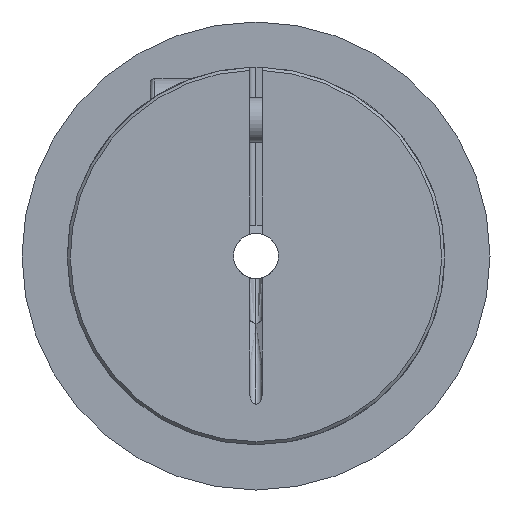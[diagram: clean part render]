
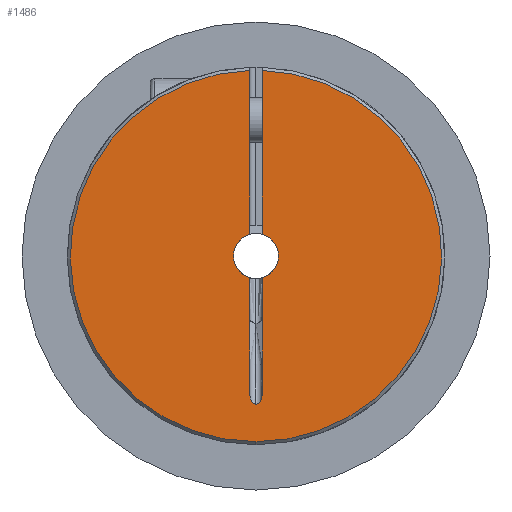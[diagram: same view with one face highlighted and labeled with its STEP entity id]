
A CAD part, left-side view. The second image highlights one B-rep face of the part: STEP entity #1486.
In plain terms, the highlighted planar face has unit normal (-1, 0, 0).
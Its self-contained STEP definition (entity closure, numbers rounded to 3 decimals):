
#5 = AXIS2_PLACEMENT_3D ( 'NONE', #1134, #2163, #2749 ) ;
#6 = DIRECTION ( 'NONE',  ( 1., 0., 0. ) ) ;
#101 = CARTESIAN_POINT ( 'NONE',  ( 0., 0.4, -9.347 ) ) ;
#121 = CARTESIAN_POINT ( 'NONE',  ( 0., 0.278, -9.654 ) ) ;
#137 = EDGE_CURVE ( 'NONE', #2984, #2176, #3076, .T. ) ;
#161 = LINE ( 'NONE', #651, #2791 ) ;
#164 = DIRECTION ( 'NONE',  ( 0., 0., 1. ) ) ;
#168 = VERTEX_POINT ( 'NONE', #2714 ) ;
#177 = ORIENTED_EDGE ( 'NONE', *, *, #1139, .T. ) ;
#186 = CIRCLE ( 'NONE', #5, 1.5 ) ;
#262 = DIRECTION ( 'NONE',  ( -1., 0., 0. ) ) ;
#301 = DIRECTION ( 'NONE',  ( -1., 0., 0. ) ) ;
#310 = ORIENTED_EDGE ( 'NONE', *, *, #1263, .T. ) ;
#317 = CARTESIAN_POINT ( 'NONE',  ( 0., 0., 0. ) ) ;
#362 = ORIENTED_EDGE ( 'NONE', *, *, #137, .T. ) ;
#383 = ORIENTED_EDGE ( 'NONE', *, *, #428, .F. ) ;
#424 = EDGE_CURVE ( 'NONE', #3245, #2863, #3119, .T. ) ;
#428 = EDGE_CURVE ( 'NONE', #1166, #2917, #1960, .T. ) ;
#495 = CARTESIAN_POINT ( 'NONE',  ( 0., -0.132, -9.789 ) ) ;
#510 = VERTEX_POINT ( 'NONE', #1054 ) ;
#607 = VERTEX_POINT ( 'NONE', #2677 ) ;
#635 = CIRCLE ( 'NONE', #2739, 12.3 ) ;
#651 = CARTESIAN_POINT ( 'NONE',  ( 0., 0.4, 0. ) ) ;
#662 = FACE_OUTER_BOUND ( 'NONE', #2459, .T. ) ;
#664 = ORIENTED_EDGE ( 'NONE', *, *, #424, .F. ) ;
#754 = ORIENTED_EDGE ( 'NONE', *, *, #1452, .F. ) ;
#769 = CARTESIAN_POINT ( 'NONE',  ( 0., 0., -12.3 ) ) ;
#874 = DIRECTION ( 'NONE',  ( 0., 0., -1. ) ) ;
#900 = CARTESIAN_POINT ( 'NONE',  ( 0., 0.131, -9.789 ) ) ;
#922 = CARTESIAN_POINT ( 'NONE',  ( 0., 0.4, 1.446 ) ) ;
#974 = CARTESIAN_POINT ( 'NONE',  ( 0., 0.067, -9.815 ) ) ;
#1042 = CARTESIAN_POINT ( 'NONE',  ( 0., 0.4, -1.446 ) ) ;
#1046 = EDGE_CURVE ( 'NONE', #607, #3245, #186, .T. ) ;
#1054 = CARTESIAN_POINT ( 'NONE',  ( 0., 0.4, 12.293 ) ) ;
#1134 = CARTESIAN_POINT ( 'NONE',  ( 0., 0., 0. ) ) ;
#1139 = EDGE_CURVE ( 'NONE', #1166, #510, #161, .T. ) ;
#1166 = VERTEX_POINT ( 'NONE', #922 ) ;
#1167 = CARTESIAN_POINT ( 'NONE',  ( 0., 0.4, -9.214 ) ) ;
#1217 = CARTESIAN_POINT ( 'NONE',  ( 0., -0.067, -9.815 ) ) ;
#1263 = EDGE_CURVE ( 'NONE', #2176, #168, #3445, .T. ) ;
#1270 = CARTESIAN_POINT ( 'NONE',  ( 0., -0.393, -9.346 ) ) ;
#1271 = CARTESIAN_POINT ( 'NONE',  ( 0., 0.4, 0. ) ) ;
#1272 = ORIENTED_EDGE ( 'NONE', *, *, #2486, .T. ) ;
#1283 = VERTEX_POINT ( 'NONE', #769 ) ;
#1346 = VECTOR ( 'NONE', #3177, 1000. ) ;
#1393 = VECTOR ( 'NONE', #3295, 1000. ) ;
#1402 = AXIS2_PLACEMENT_3D ( 'NONE', #1593, #262, #2120 ) ;
#1452 = EDGE_CURVE ( 'NONE', #2984, #607, #2659, .T. ) ;
#1486 = ADVANCED_FACE ( 'NONE', ( #662 ), #1728, .F. ) ;
#1554 = CARTESIAN_POINT ( 'NONE',  ( 0., -0.4, 12.293 ) ) ;
#1593 = CARTESIAN_POINT ( 'NONE',  ( 0., 0., 0. ) ) ;
#1728 = PLANE ( 'NONE',  #2733 ) ;
#1760 = CARTESIAN_POINT ( 'NONE',  ( 0., -0.4, 0. ) ) ;
#1790 = DIRECTION ( 'NONE',  ( 0., 0., 1. ) ) ;
#1960 = CIRCLE ( 'NONE', #2014, 1.5 ) ;
#2014 = AXIS2_PLACEMENT_3D ( 'NONE', #3365, #2039, #1790 ) ;
#2039 = DIRECTION ( 'NONE',  ( -1., 0., 0. ) ) ;
#2116 = ORIENTED_EDGE ( 'NONE', *, *, #1046, .F. ) ;
#2120 = DIRECTION ( 'NONE',  ( 0., 0., -1. ) ) ;
#2163 = DIRECTION ( 'NONE',  ( -1., 0., 0. ) ) ;
#2176 = VERTEX_POINT ( 'NONE', #2565 ) ;
#2234 = CIRCLE ( 'NONE', #1402, 12.3 ) ;
#2239 = CARTESIAN_POINT ( 'NONE',  ( 0., 0.373, -9.48 ) ) ;
#2265 = CARTESIAN_POINT ( 'NONE',  ( 0., 0., -9.815 ) ) ;
#2282 = CARTESIAN_POINT ( 'NONE',  ( 0., -0.4, -9.214 ) ) ;
#2308 = CARTESIAN_POINT ( 'NONE',  ( 0., -0.4, -9.281 ) ) ;
#2322 = CARTESIAN_POINT ( 'NONE',  ( 0., -0.364, -9.474 ) ) ;
#2323 = LINE ( 'NONE', #1271, #1346 ) ;
#2334 = CARTESIAN_POINT ( 'NONE',  ( 0., -0.341, -9.538 ) ) ;
#2355 = CARTESIAN_POINT ( 'NONE',  ( 0., -0.4, 1.446 ) ) ;
#2421 = ORIENTED_EDGE ( 'NONE', *, *, #2422, .T. ) ;
#2422 = EDGE_CURVE ( 'NONE', #510, #1283, #2234, .T. ) ;
#2459 = EDGE_LOOP ( 'NONE', ( #177, #2421, #1272, #664, #2116, #754, #362, #310, #3247, #383 ) ) ;
#2483 = CARTESIAN_POINT ( 'NONE',  ( 0., 0.237, -9.708 ) ) ;
#2486 = EDGE_CURVE ( 'NONE', #1283, #2863, #635, .T. ) ;
#2565 = CARTESIAN_POINT ( 'NONE',  ( 0., 0., -9.815 ) ) ;
#2659 = LINE ( 'NONE', #3273, #1393 ) ;
#2677 = CARTESIAN_POINT ( 'NONE',  ( 0., -0.4, -1.446 ) ) ;
#2714 = CARTESIAN_POINT ( 'NONE',  ( 0., 0.4, -9.214 ) ) ;
#2733 = AXIS2_PLACEMENT_3D ( 'NONE', #2772, #6, #874 ) ;
#2739 = AXIS2_PLACEMENT_3D ( 'NONE', #317, #301, #3004 ) ;
#2749 = DIRECTION ( 'NONE',  ( 0., 0., 1. ) ) ;
#2772 = CARTESIAN_POINT ( 'NONE',  ( 0., 0., 0. ) ) ;
#2791 = VECTOR ( 'NONE', #3103, 1000. ) ;
#2863 = VERTEX_POINT ( 'NONE', #1554 ) ;
#2917 = VERTEX_POINT ( 'NONE', #1042 ) ;
#2984 = VERTEX_POINT ( 'NONE', #3226 ) ;
#3004 = DIRECTION ( 'NONE',  ( 0., 0., -1. ) ) ;
#3076 = B_SPLINE_CURVE_WITH_KNOTS ( 'NONE', 3,
 ( #2282, #2308, #1270, #2322, #2334, #3354, #3384, #495, #1217, #2265 ),
 .UNSPECIFIED., .F., .F.,
 ( 4, 2, 2, 2, 4 ),
 ( 0., 0., 0., 0.001, 0.001 ),
 .UNSPECIFIED. ) ;
#3103 = DIRECTION ( 'NONE',  ( 0., 0., 1. ) ) ;
#3119 = LINE ( 'NONE', #1760, #3407 ) ;
#3177 = DIRECTION ( 'NONE',  ( 0., 0., 1. ) ) ;
#3226 = CARTESIAN_POINT ( 'NONE',  ( 0., -0.4, -9.214 ) ) ;
#3245 = VERTEX_POINT ( 'NONE', #2355 ) ;
#3247 = ORIENTED_EDGE ( 'NONE', *, *, #3274, .T. ) ;
#3273 = CARTESIAN_POINT ( 'NONE',  ( 0., -0.4, 0. ) ) ;
#3274 = EDGE_CURVE ( 'NONE', #168, #2917, #2323, .T. ) ;
#3295 = DIRECTION ( 'NONE',  ( 0., 0., 1. ) ) ;
#3310 = CARTESIAN_POINT ( 'NONE',  ( 0., 0., -9.815 ) ) ;
#3354 = CARTESIAN_POINT ( 'NONE',  ( 0., -0.278, -9.654 ) ) ;
#3365 = CARTESIAN_POINT ( 'NONE',  ( 0., 0., 0. ) ) ;
#3384 = CARTESIAN_POINT ( 'NONE',  ( 0., -0.237, -9.707 ) ) ;
#3407 = VECTOR ( 'NONE', #164, 1000. ) ;
#3445 = B_SPLINE_CURVE_WITH_KNOTS ( 'NONE', 3,
 ( #3310, #974, #900, #2483, #121, #2239, #101, #1167 ),
 .UNSPECIFIED., .F., .F.,
 ( 4, 2, 2, 4 ),
 ( 0., 0., 0., 0.001 ),
 .UNSPECIFIED. ) ;
